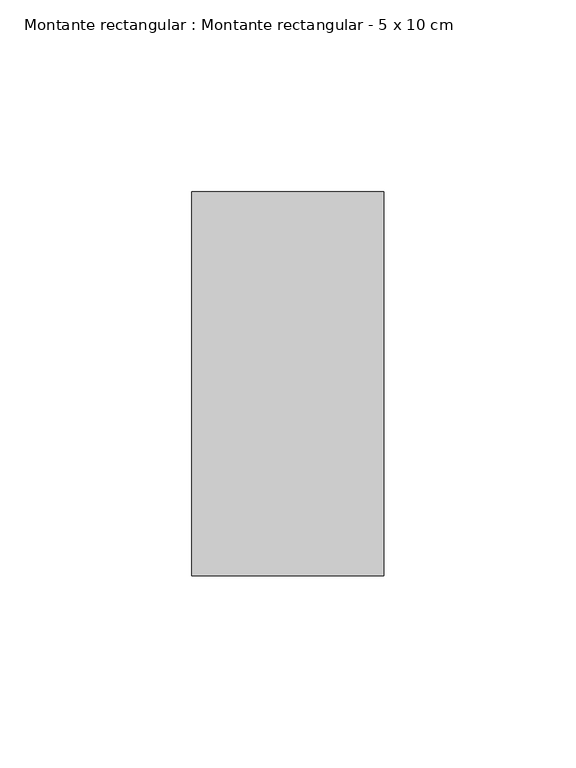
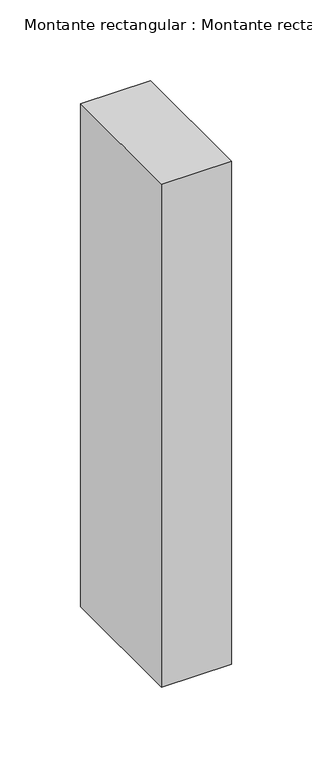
"""IFC4 building model written with IfcOpenShell, lengths in millimetres: member geometry, Montante rectangular : Montante rectangular - 5 x 10 cm."""

from ifc_helpers import new_model, si_unit, frame, origin, place, context, project, spatial, polyline, outline, extrude, source, transform, mapped, element, save


def montante_rectangular_montante_rectangular_5_x_10_cm_7311e194(model_context):
    return source(origin(), model_context, "Body", "SweptSolid", [
        extrude(outline(polyline([(25.0, 50.0), (25.0, -50.0), (-25.0, -50.0), (-25.0, 50.0), (25.0, 50.0)])), frame((0.0, 0.0, -380.0), z_axis=(0.0, 0.0, 1.0), x_axis=(1.0, 0.0, 0.0)), (0.0, 0.0, 1.0), 380.0),
    ])


if __name__ == "__main__":
    model = new_model("IFC4")
    model_context = context("Model", 3, world=origin())
    ifc_project = project(units=[si_unit("LENGTHUNIT", "METRE", prefix="MILLI")], contexts=[model_context])
    site = spatial("IfcSite", under=ifc_project)
    building = spatial("IfcBuilding", under=site)
    placement = place(None, origin())
    montante_rectangular_montante_rectangular_5_x_10_cm_shape = montante_rectangular_montante_rectangular_5_x_10_cm_7311e194(model_context)
    element("IfcMember", 1, ObjectType="Montante rectangular : Montante rectangular - 5 x 10 cm", at=placement, inside=building, context=model_context, shape_type="MappedRepresentation", body=[
        mapped(montante_rectangular_montante_rectangular_5_x_10_cm_shape, transform((0.0, 0.0, 0.0), x_axis=(1.0, 0.0, 0.0), y_axis=(0.0, 1.0, 0.0), z_axis=(0.0, 0.0, 1.0))),
    ])
    save(model, "model.ifc")
